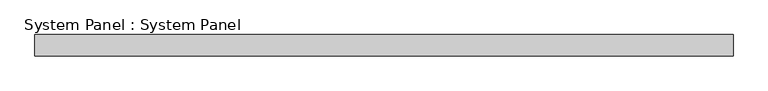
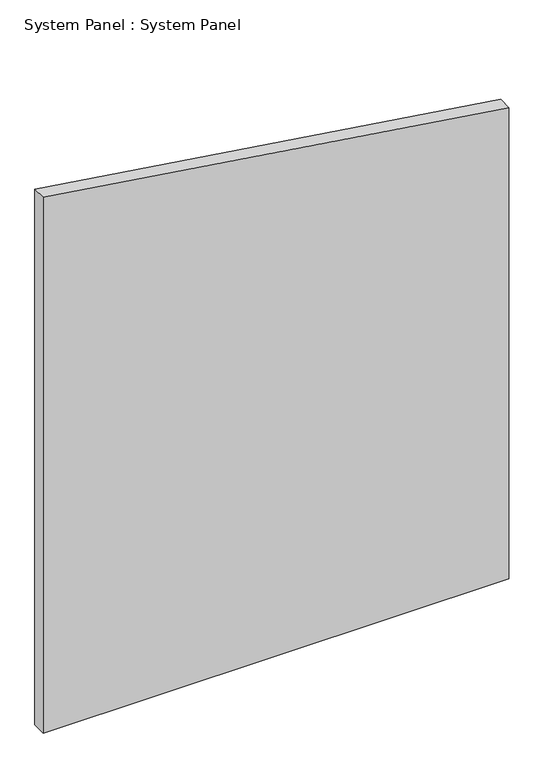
"""IFC4 building model written with IfcOpenShell, lengths in millimetres: plate geometry, System Panel : System Panel."""

from ifc_helpers import new_model, si_unit, frame, origin, place, context, project, spatial, polyline, outline, extrude, source, transform, mapped, element, save


def system_panel_system_panel_86a0993d(model_context):
    return source(origin(), model_context, "Body", "SweptSolid", [
        extrude(outline(polyline([(0.0, 1659.872753), (3551.2186501, 1659.872753), (4037.6457165, -1659.872753), (0.0, -1659.872753), (0.0, 1659.872753)])), frame((0.0, -50.8, 0.0), z_axis=(0.0, 1.0, 0.0), x_axis=(0.0, 0.0, 1.0)), (0.0, 0.0, 1.0), 101.6),
    ])


if __name__ == "__main__":
    model = new_model("IFC4")
    model_context = context("Model", 3, world=origin())
    ifc_project = project(units=[si_unit("LENGTHUNIT", "METRE", prefix="MILLI")], contexts=[model_context])
    site = spatial("IfcSite", under=ifc_project)
    building = spatial("IfcBuilding", under=site)
    placement = place(None, origin())
    system_panel_system_panel_shape = system_panel_system_panel_86a0993d(model_context)
    element("IfcPlate", 1, ObjectType="System Panel : System Panel", at=placement, inside=building, context=model_context, shape_type="MappedRepresentation", body=[
        mapped(system_panel_system_panel_shape, transform((0.0, 0.0, 0.0), x_axis=(1.0, 0.0, 0.0), y_axis=(0.0, 1.0, 0.0), z_axis=(0.0, 0.0, 1.0))),
    ])
    save(model, "model.ifc")
